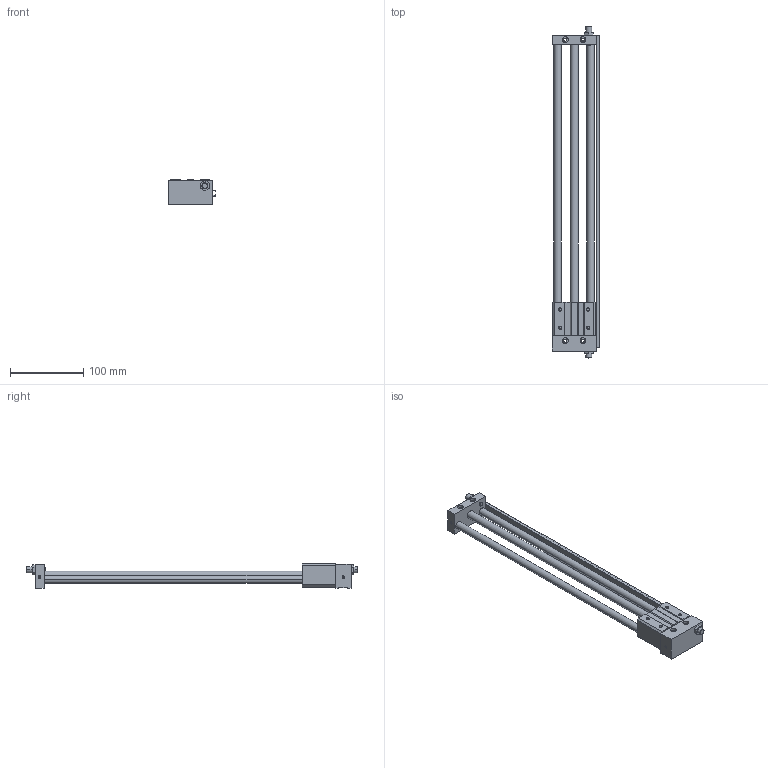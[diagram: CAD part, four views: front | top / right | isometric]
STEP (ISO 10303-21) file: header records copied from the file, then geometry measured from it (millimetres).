
FILE_DESCRIPTION((''),'2;1');
FILE_NAME('C:\Documents and Settings\Administrator\桌面\GYS\GYS10\GYSR10X350.stp','2012-03-05T10:10:48',('Administrator'),(''),'Autodesk Inventor 8','Autodesk Inventor 8','');
FILE_SCHEMA(('AUTOMOTIVE_DESIGN { 1 0 10303 214 1 1 1 1 }'));
Length unit declared in the file: millimetre
Products named in the file (3): GYSR10X350; GYS10X350; GYS10160X350
Assembly tree (2 placements, depth 2):
  GYSR10X350
    GYS10X350
    GYS10160X350
Bounding box: 65 x 452 x 34 mm (x, y, z)
Volume: 239960.7 mm3; surface area: 78812.9 mm2
Topology: 2 solids, 2 shells, 193 faces, 462 edges, 296 vertices
Faces by surface type: plane 97, cylinder 58, cone 32, bspline 6
Entity records: 5756 total; most frequent: CARTESIAN_POINT 1030, DIRECTION 1006, ORIENTED_EDGE 924, EDGE_CURVE 462, AXIS2_PLACEMENT_3D 352, VECTOR 302, LINE 302, VERTEX_POINT 296
